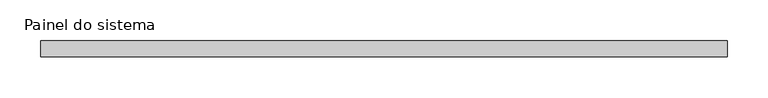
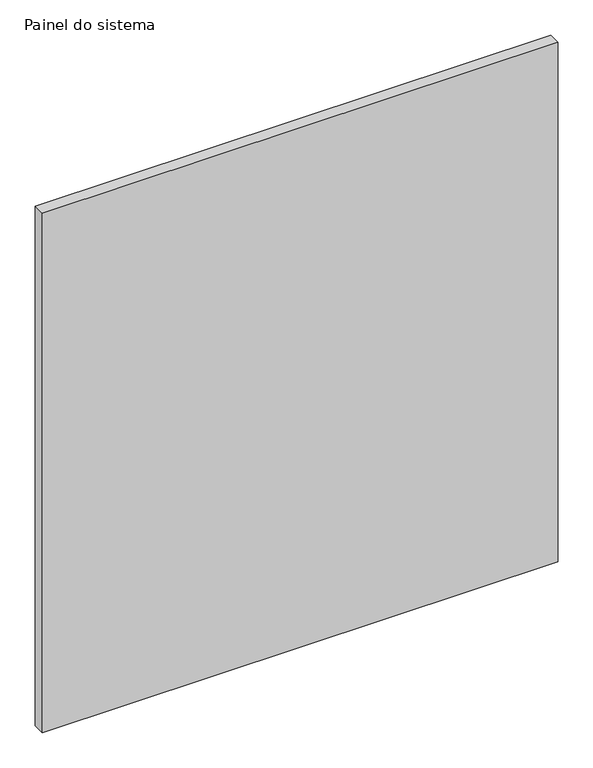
"""IFC4 building model written with IfcOpenShell, lengths in millimetres: plate geometry, Painel do sistema : Envidraçado."""

import ifcopenshell
import ifcopenshell.guid

model = None  # the IFC model being written
_history = None  # IfcOwnerHistory: only IFC2X3 demands one
_inside = {}  # id of a spatial element -> (the spatial element, [elements in it])
_under = {}  # id of a project, library or spatial element -> (it, [spatial elements below it])
_declared = {}  # id of a project -> (the project, [libraries it declares])
_typed = {}  # id of a type object -> (the type object, [elements of that type])
_made_of = {}  # id of a material, layer set ... -> (it, [elements and type objects made of it])


def new_model(schema):
    """Start an empty IFC model of exactly this schema.

    Asked for "IFC4X3", IfcOpenShell would pick the latest addendum, in which some entities
    have other attributes; the version numbers below select the first issue.
    IFC2X3 requires an IfcOwnerHistory on every rooted entity: one is made here for all.
    """
    global model, _history
    if schema == "IFC4X3":
        model = ifcopenshell.file(schema_version=(4, 3, 0, 0))
    else:
        model = ifcopenshell.file(schema=schema)
    _inside.clear()
    _under.clear()
    _declared.clear()
    _typed.clear()
    _made_of.clear()
    _history = None
    if model.schema == "IFC2X3":
        org = make("IfcOrganization", Name="unknown")
        user = make(
            "IfcPersonAndOrganization",
            ThePerson=make("IfcPerson", FamilyName="unknown"),
            TheOrganization=org,
        )
        app = make(
            "IfcApplication",
            ApplicationDeveloper=org,
            Version="unknown",
            ApplicationFullName="unknown",
            ApplicationIdentifier="unknown",
        )
        _history = make(
            "IfcOwnerHistory",
            OwningUser=user,
            OwningApplication=app,
            ChangeAction="ADDED",
            CreationDate=0,
        )
    return model


def make(cls, **values):
    """One entity of the class cls with the attributes given. An attribute that is None is left unset."""
    return model.create_entity(
        cls, **{name: value for name, value in values.items() if value is not None}
    )


def rooted(cls, **values):
    """An entity with a GlobalId (a new one), such as an element, a storey or a relation."""
    return make(cls, GlobalId=ifcopenshell.guid.new(), OwnerHistory=_history, **values)


def si_unit(unit_type, name, prefix=None):
    """IfcSIUnit, for example si_unit("LENGTHUNIT", "METRE", prefix="MILLI")."""
    return make("IfcSIUnit", UnitType=unit_type, Prefix=prefix, Name=name)


def assignment(units):
    """IfcUnitAssignment: the units of a project."""
    return None if units is None else make("IfcUnitAssignment", Units=units)


def point(xyz):
    """IfcCartesianPoint."""
    return None if xyz is None else make("IfcCartesianPoint", Coordinates=xyz)


def direction(xyz):
    """IfcDirection."""
    return None if xyz is None else make("IfcDirection", DirectionRatios=xyz)


def frame(location, z_axis=None, x_axis=None):
    """IfcAxis2Placement3D, a coordinate frame: its origin and axes. An axis left out is left unset."""
    return make(
        "IfcAxis2Placement3D",
        Location=point(location),
        Axis=direction(z_axis),
        RefDirection=direction(x_axis),
    )


def origin():
    """The frame at (0, 0, 0) with its axes left unset."""
    return frame((0.0, 0.0, 0.0))


def origin_with_axes():
    """The frame at (0, 0, 0) with the z axis (0, 0, 1) and the x axis (1, 0, 0) written out."""
    return frame((0.0, 0.0, 0.0), z_axis=(0.0, 0.0, 1.0), x_axis=(1.0, 0.0, 0.0))


def place(relative_to, where):
    """IfcLocalPlacement: puts the frame where relative to a parent placement (None: the world)."""
    return make(
        "IfcLocalPlacement", PlacementRelTo=relative_to, RelativePlacement=where
    )


def context(
    kind, dimensions, precision=None, world=None, true_north=None, identifier=None
):
    """IfcGeometricRepresentationContext, for example the 3D "Model" context."""
    return make(
        "IfcGeometricRepresentationContext",
        ContextIdentifier=identifier,
        ContextType=kind,
        CoordinateSpaceDimension=dimensions,
        Precision=precision,
        WorldCoordinateSystem=world,
        TrueNorth=true_north,
    )


def project(units=None, contexts=None):
    """IfcProject with its units and contexts."""
    return rooted(
        "IfcProject",
        Name="project",
        RepresentationContexts=contexts,
        UnitsInContext=assignment(units),
    )


def spatial(cls, under=None, at=None, **own):
    """A site, building, storey or space (cls), placed at a placement, below another one or the project."""
    s = rooted(cls, ObjectPlacement=at, **own)
    if under is not None:
        _under.setdefault(under.id(), (under, []))[1].append(s)
    return s


def polyline(points):
    """IfcPolyline through the points."""
    return make("IfcPolyline", Points=[point(p) for p in points])


def outline(outer, holes=None, kind="AREA"):
    """IfcArbitraryClosedProfileDef: a profile drawn as a closed curve; with holes, ...WithVoids."""
    if holes is None:
        return make("IfcArbitraryClosedProfileDef", ProfileType=kind, OuterCurve=outer)
    return make(
        "IfcArbitraryProfileDefWithVoids",
        ProfileType=kind,
        OuterCurve=outer,
        InnerCurves=holes,
    )


def extrude(swept, where, along, depth):
    """IfcExtrudedAreaSolid: the profile swept, set in the frame where, extruded along a direction by depth."""
    return make(
        "IfcExtrudedAreaSolid",
        SweptArea=swept,
        Position=where,
        ExtrudedDirection=direction(along),
        Depth=depth,
    )


def shape(context_of_items, identifier, shape_type, items):
    """IfcShapeRepresentation: the items that make up one representation, for example the "Body"."""
    return make(
        "IfcShapeRepresentation",
        ContextOfItems=context_of_items,
        RepresentationIdentifier=identifier,
        RepresentationType=shape_type,
        Items=items,
    )


def source(mapping_origin, context_of_items, identifier, shape_type, items):
    """IfcRepresentationMap: a shape defined once, which mapped items show again and again."""
    return make(
        "IfcRepresentationMap",
        MappingOrigin=mapping_origin,
        MappedRepresentation=shape(context_of_items, identifier, shape_type, items),
    )


def transform(
    local_origin,
    x_axis=None,
    y_axis=None,
    z_axis=None,
    scale=None,
    scale2=None,
    scale3=None,
    uniform=True,
):
    """IfcCartesianTransformationOperator3D, or its non-uniform kind. x_axis, y_axis, z_axis: its Axis1, 2, 3."""
    if uniform:
        return make(
            "IfcCartesianTransformationOperator3D",
            Axis1=direction(x_axis),
            Axis2=direction(y_axis),
            LocalOrigin=point(local_origin),
            Scale=scale,
            Axis3=direction(z_axis),
        )
    return make(
        "IfcCartesianTransformationOperator3DnonUniform",
        Axis1=direction(x_axis),
        Axis2=direction(y_axis),
        LocalOrigin=point(local_origin),
        Scale=scale,
        Axis3=direction(z_axis),
        Scale2=scale2,
        Scale3=scale3,
    )


def mapped(mapping_source, mapping_target):
    """IfcMappedItem: shows the shape of a source again, moved by a transform."""
    return make(
        "IfcMappedItem", MappingSource=mapping_source, MappingTarget=mapping_target
    )


def made_of(thing, what):
    """Note that an element or type object is made of a material, layer set ...; save() writes the relation."""
    if what is not None:
        _made_of.setdefault(what.id(), (what, []))[1].append(thing)
    return thing


def element(
    cls,
    number,
    at=None,
    inside=None,
    cuts=None,
    type_object=None,
    material=None,
    context=None,
    identifier="Body",
    shape_type=None,
    held_by="IfcProductDefinitionShape",
    body=None,
    shapes=None,
    **own,
):
    """One element of the class cls, such as IfcWall. Its Tag is "e" and its number.

    at: its placement. inside: the storey or other place that contains it. cuts: it is an
    opening in that element (IfcRelVoidsElement). A single representation is given by context,
    identifier, shape_type and body (its items); several are given by shapes. held_by: the class
    of the entity that holds the representations. save() writes the other relations.
    """
    e = rooted(cls, Tag="e%d" % number, ObjectPlacement=at, **own)
    if body is not None:
        shapes = [shape(context, identifier, shape_type, body)]
    if shapes is not None:
        e.Representation = make(held_by, Representations=shapes)
    if inside is not None:
        _inside.setdefault(inside.id(), (inside, []))[1].append(e)
    if cuts is not None:
        rooted(
            "IfcRelVoidsElement", RelatingBuildingElement=cuts, RelatedOpeningElement=e
        )
    if type_object is not None:
        _typed.setdefault(type_object.id(), (type_object, []))[1].append(e)
    return made_of(e, material)


def aggregate(whole, parts):
    """IfcRelAggregates: a whole, such as a stair, and the parts it consists of."""
    return rooted("IfcRelAggregates", RelatingObject=whole, RelatedObjects=parts)


def save(model, path):
    """Write the relations noted so far, then the file.

    IfcRelAggregates (storeys below a building ...), IfcRelContainedInSpatialStructure (elements
    in a storey), IfcRelDefinesByType, IfcRelAssociatesMaterial and IfcRelDeclares: one each for
    every whole, place, type object, material and project.
    """
    for whole, parts in _under.values():
        aggregate(whole, parts)
    for where, things in _inside.values():
        rooted(
            "IfcRelContainedInSpatialStructure",
            RelatedElements=things,
            RelatingStructure=where,
        )
    for kind, things in _typed.values():
        rooted("IfcRelDefinesByType", RelatedObjects=things, RelatingType=kind)
    for what, things in _made_of.values():
        rooted("IfcRelAssociatesMaterial", RelatedObjects=things, RelatingMaterial=what)
    for by, libraries in _declared.values():
        rooted("IfcRelDeclares", RelatingContext=by, RelatedDefinitions=libraries)
    model.write(path)


def painel_do_sistema_ab0ed719(model_context):
    return source(origin(), model_context, "Body", "SweptSolid", [
        extrude(outline(polyline([(422.5, -10.0), (-422.5, -10.0), (-422.5, 10.0), (422.5, 10.0), (422.5, -10.0)])), origin_with_axes(), (0.0, 0.0, 1.0), 900.0),
    ])


if __name__ == "__main__":
    model = new_model("IFC4")
    model_context = context("Model", 3, world=origin())
    ifc_project = project(units=[si_unit("LENGTHUNIT", "METRE", prefix="MILLI")], contexts=[model_context])
    site = spatial("IfcSite", under=ifc_project)
    building = spatial("IfcBuilding", under=site)
    placement = place(None, origin())
    painel_do_sistema_shape = painel_do_sistema_ab0ed719(model_context)
    element("IfcPlate", 1, ObjectType="Painel do sistema : Envidraçado", at=placement, inside=building, context=model_context, shape_type="MappedRepresentation", body=[
        mapped(painel_do_sistema_shape, transform((0.0, 0.0, 0.0), x_axis=(1.0, 0.0, 0.0), y_axis=(0.0, 1.0, 0.0), z_axis=(0.0, 0.0, 1.0))),
    ])
    save(model, "model.ifc")
